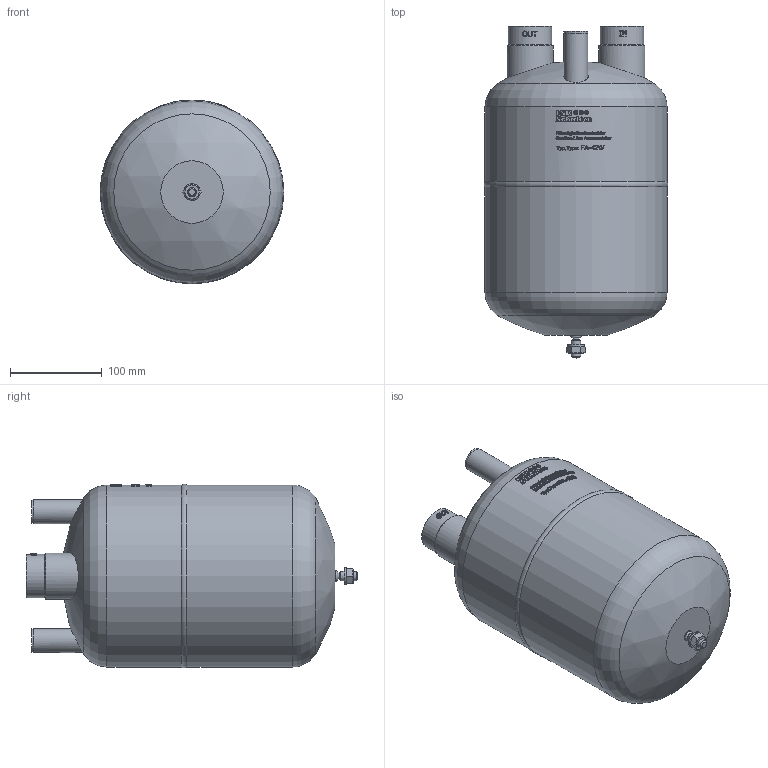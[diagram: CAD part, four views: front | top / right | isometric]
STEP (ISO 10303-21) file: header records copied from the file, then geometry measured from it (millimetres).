
FILE_DESCRIPTION(/* description */ (''),/* implementation_level */ '2;1');
FILE_NAME(/* name */ 'P:\FA\FA-42W\FA-42W.stp',/* time_stamp */ '2017-05-11T13:51:24+02:00',/* author */ ('Goerner'),/* organization */ (''),/* preprocessor_version */ 'ST-DEVELOPER v16.1',/* originating_system */ 'Autodesk Inventor 2016',/* authorisation */ '');
FILE_SCHEMA (('AUTOMOTIVE_DESIGN { 1 0 10303 214 3 1 1 }'));
Length unit declared in the file: millimetre
Products named in the file (1): FA-42W_AG-Kunde
Bounding box: 199.78 x 361 x 199.89 mm (x, y, z)
Volume: 8337125.8 mm3; surface area: 256355.9 mm2
Topology: 1 solids, 2 shells, 1297 faces, 3506 edges, 2334 vertices
Faces by surface type: plane 703, bspline 447, cylinder 129, cone 12, torus 4, sphere 2
Full cylindrical faces by diameter (mm): 7 x1, 10 x2, 11.5 x1, 21.4 x2, 22.4 x2, 25.4 x2, 26 x2, 42.2 x2, 47 x2, 50 x2, 191.2 x1, 192 x1, 198 x2
Entity records: 50282 total; most frequent: CARTESIAN_POINT 19930, ORIENTED_EDGE 6920, DIRECTION 5170, EDGE_CURVE 3460, VERTEX_POINT 2326, AXIS2_PLACEMENT_3D 1771, LINE 1628, VECTOR 1628
